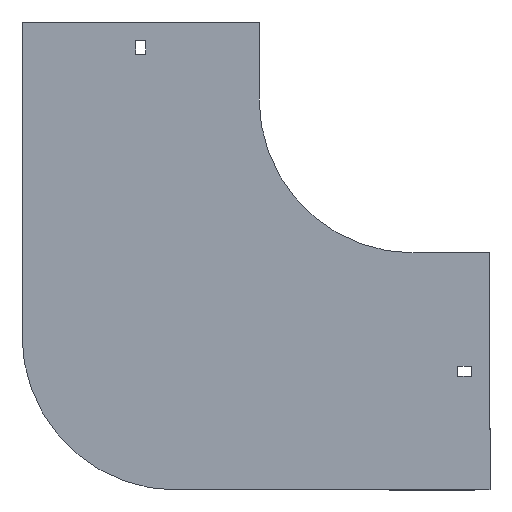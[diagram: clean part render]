
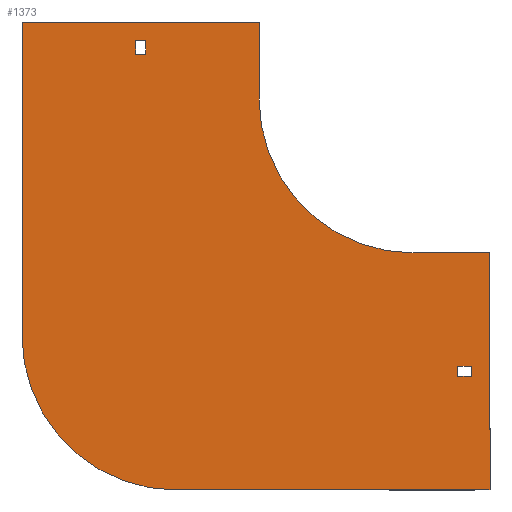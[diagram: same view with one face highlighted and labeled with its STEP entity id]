
A CAD part, front view. The second image highlights one B-rep face of the part: STEP entity #1373.
In plain terms, the highlighted planar face has unit normal (0, -1, 0).
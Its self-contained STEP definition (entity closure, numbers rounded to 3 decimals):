
#10 = EDGE_CURVE ( 'NONE', #223, #844, #1208, .T. ) ;
#24 = VERTEX_POINT ( 'NONE', #856 ) ;
#40 = CARTESIAN_POINT ( 'NONE',  ( -100., 0., 0. ) ) ;
#52 = FACE_BOUND ( 'NONE', #233, .T. ) ;
#71 = CARTESIAN_POINT ( 'NONE',  ( -100., 0., 50. ) ) ;
#92 = CARTESIAN_POINT ( 'NONE',  ( -173.75, 0., 29. ) ) ;
#130 = CARTESIAN_POINT ( 'NONE',  ( 29., 0., -180.25 ) ) ;
#133 = VERTEX_POINT ( 'NONE', #886 ) ;
#172 = CARTESIAN_POINT ( 'NONE',  ( -173.75, 0., 38. ) ) ;
#209 = VERTEX_POINT ( 'NONE', #172 ) ;
#223 = VERTEX_POINT ( 'NONE', #71 ) ;
#227 = AXIS2_PLACEMENT_3D ( 'NONE', #358, #773, #465 ) ;
#233 = EDGE_LOOP ( 'NONE', ( #887, #319, #785, #762 ) ) ;
#238 = DIRECTION ( 'NONE',  ( 0., 0., -1. ) ) ;
#240 = VERTEX_POINT ( 'NONE', #801 ) ;
#302 = ORIENTED_EDGE ( 'NONE', *, *, #1188, .F. ) ;
#303 = DIRECTION ( 'NONE',  ( 0., 0., 1. ) ) ;
#304 = VECTOR ( 'NONE', #565, 1000. ) ;
#307 = EDGE_CURVE ( 'NONE', #1402, #1036, #934, .T. ) ;
#319 = ORIENTED_EDGE ( 'NONE', *, *, #1051, .T. ) ;
#323 = LINE ( 'NONE', #404, #1011 ) ;
#324 = EDGE_CURVE ( 'NONE', #1121, #240, #520, .T. ) ;
#328 = VECTOR ( 'NONE', #1186, 1000. ) ;
#331 = CARTESIAN_POINT ( 'NONE',  ( 0., 0., 0. ) ) ;
#353 = CARTESIAN_POINT ( 'NONE',  ( 29., 0., -180.25 ) ) ;
#358 = CARTESIAN_POINT ( 'NONE',  ( -154., 0., -154. ) ) ;
#361 = ORIENTED_EDGE ( 'NONE', *, *, #324, .F. ) ;
#383 = ORIENTED_EDGE ( 'NONE', *, *, #908, .F. ) ;
#399 = CARTESIAN_POINT ( 'NONE',  ( 50., 0., -254. ) ) ;
#401 = VECTOR ( 'NONE', #664, 1000. ) ;
#404 = CARTESIAN_POINT ( 'NONE',  ( 50., 0., -100. ) ) ;
#407 = LINE ( 'NONE', #611, #440 ) ;
#437 = LINE ( 'NONE', #970, #304 ) ;
#440 = VECTOR ( 'NONE', #1009, 1000. ) ;
#448 = CARTESIAN_POINT ( 'NONE',  ( -154., 0., -254. ) ) ;
#454 = ORIENTED_EDGE ( 'NONE', *, *, #1321, .F. ) ;
#465 = DIRECTION ( 'NONE',  ( 0., 0., 1. ) ) ;
#474 = DIRECTION ( 'NONE',  ( 0., -1., 0. ) ) ;
#487 = CARTESIAN_POINT ( 'NONE',  ( 0., 0., 0. ) ) ;
#489 = VECTOR ( 'NONE', #506, 1000. ) ;
#499 = EDGE_CURVE ( 'NONE', #24, #1121, #875, .T. ) ;
#506 = DIRECTION ( 'NONE',  ( 1., 0., 0. ) ) ;
#513 = CARTESIAN_POINT ( 'NONE',  ( 38., 0., -180.25 ) ) ;
#520 = LINE ( 'NONE', #513, #1055 ) ;
#531 = EDGE_CURVE ( 'NONE', #240, #764, #407, .T. ) ;
#541 = ORIENTED_EDGE ( 'NONE', *, *, #799, .F. ) ;
#551 = ORIENTED_EDGE ( 'NONE', *, *, #1211, .F. ) ;
#565 = DIRECTION ( 'NONE',  ( 0., 0., -1. ) ) ;
#586 = FACE_BOUND ( 'NONE', #678, .T. ) ;
#597 = EDGE_CURVE ( 'NONE', #1261, #133, #1132, .T. ) ;
#611 = CARTESIAN_POINT ( 'NONE',  ( 29., 0., -173.75 ) ) ;
#619 = CARTESIAN_POINT ( 'NONE',  ( -180.25, 0., 29. ) ) ;
#633 = DIRECTION ( 'NONE',  ( 0., 0., -1. ) ) ;
#641 = CIRCLE ( 'NONE', #227, 100. ) ;
#645 = LINE ( 'NONE', #1212, #328 ) ;
#664 = DIRECTION ( 'NONE',  ( 1., 0., 0. ) ) ;
#667 = VERTEX_POINT ( 'NONE', #833 ) ;
#678 = EDGE_LOOP ( 'NONE', ( #361, #1388, #383, #951 ) ) ;
#683 = FACE_OUTER_BOUND ( 'NONE', #1035, .T. ) ;
#689 = VERTEX_POINT ( 'NONE', #952 ) ;
#690 = CARTESIAN_POINT ( 'NONE',  ( -180.25, 0., 29. ) ) ;
#692 = LINE ( 'NONE', #1350, #1210 ) ;
#695 = CARTESIAN_POINT ( 'NONE',  ( 0., 0., -100. ) ) ;
#706 = PLANE ( 'NONE',  #1057 ) ;
#726 = VERTEX_POINT ( 'NONE', #1046 ) ;
#762 = ORIENTED_EDGE ( 'NONE', *, *, #1352, .T. ) ;
#764 = VERTEX_POINT ( 'NONE', #1000 ) ;
#768 = ORIENTED_EDGE ( 'NONE', *, *, #10, .F. ) ;
#773 = DIRECTION ( 'NONE',  ( 0., 1., 0. ) ) ;
#785 = ORIENTED_EDGE ( 'NONE', *, *, #1234, .T. ) ;
#799 = EDGE_CURVE ( 'NONE', #667, #223, #645, .T. ) ;
#801 = CARTESIAN_POINT ( 'NONE',  ( 38., 0., -173.75 ) ) ;
#804 = DIRECTION ( 'NONE',  ( -1., 0., 0. ) ) ;
#822 = AXIS2_PLACEMENT_3D ( 'NONE', #331, #1043, #1394 ) ;
#833 = CARTESIAN_POINT ( 'NONE',  ( -254., 0., 50. ) ) ;
#844 = VERTEX_POINT ( 'NONE', #40 ) ;
#850 = LINE ( 'NONE', #1263, #1033 ) ;
#856 = CARTESIAN_POINT ( 'NONE',  ( 29., 0., -180.25 ) ) ;
#864 = CIRCLE ( 'NONE', #822, 100. ) ;
#873 = CARTESIAN_POINT ( 'NONE',  ( 0., 0., -100. ) ) ;
#875 = LINE ( 'NONE', #353, #401 ) ;
#886 = CARTESIAN_POINT ( 'NONE',  ( 50., 0., -100. ) ) ;
#887 = ORIENTED_EDGE ( 'NONE', *, *, #307, .T. ) ;
#907 = CARTESIAN_POINT ( 'NONE',  ( -180.25, 0., 38. ) ) ;
#908 = EDGE_CURVE ( 'NONE', #764, #24, #1312, .T. ) ;
#913 = LINE ( 'NONE', #690, #1238 ) ;
#920 = DIRECTION ( 'NONE',  ( 0., 0., -1. ) ) ;
#934 = LINE ( 'NONE', #619, #1213 ) ;
#935 = ORIENTED_EDGE ( 'NONE', *, *, #1073, .F. ) ;
#936 = CARTESIAN_POINT ( 'NONE',  ( 38., 0., -180.25 ) ) ;
#951 = ORIENTED_EDGE ( 'NONE', *, *, #531, .F. ) ;
#952 = CARTESIAN_POINT ( 'NONE',  ( 50., 0., -254. ) ) ;
#957 = ORIENTED_EDGE ( 'NONE', *, *, #1148, .F. ) ;
#970 = CARTESIAN_POINT ( 'NONE',  ( -173.75, 0., 29. ) ) ;
#1000 = CARTESIAN_POINT ( 'NONE',  ( 29., 0., -173.75 ) ) ;
#1009 = DIRECTION ( 'NONE',  ( -1., 0., 0. ) ) ;
#1011 = VECTOR ( 'NONE', #633, 1000. ) ;
#1033 = VECTOR ( 'NONE', #303, 1000. ) ;
#1035 = EDGE_LOOP ( 'NONE', ( #541, #551, #454, #935, #302, #1223, #957, #768 ) ) ;
#1036 = VERTEX_POINT ( 'NONE', #907 ) ;
#1043 = DIRECTION ( 'NONE',  ( 0., -1., 0. ) ) ;
#1046 = CARTESIAN_POINT ( 'NONE',  ( -254., 0., -154. ) ) ;
#1051 = EDGE_CURVE ( 'NONE', #1036, #209, #692, .T. ) ;
#1055 = VECTOR ( 'NONE', #1159, 1000. ) ;
#1057 = AXIS2_PLACEMENT_3D ( 'NONE', #487, #474, #920 ) ;
#1073 = EDGE_CURVE ( 'NONE', #689, #1239, #1368, .T. ) ;
#1075 = VECTOR ( 'NONE', #1295, 1000. ) ;
#1121 = VERTEX_POINT ( 'NONE', #936 ) ;
#1122 = DIRECTION ( 'NONE',  ( 1., 0., 0. ) ) ;
#1132 = LINE ( 'NONE', #695, #489 ) ;
#1142 = CARTESIAN_POINT ( 'NONE',  ( -180.25, 0., 29. ) ) ;
#1148 = EDGE_CURVE ( 'NONE', #844, #1261, #864, .T. ) ;
#1159 = DIRECTION ( 'NONE',  ( 0., 0., 1. ) ) ;
#1165 = DIRECTION ( 'NONE',  ( 0., 0., 1. ) ) ;
#1166 = VERTEX_POINT ( 'NONE', #92 ) ;
#1183 = CARTESIAN_POINT ( 'NONE',  ( -100., 0., 50. ) ) ;
#1186 = DIRECTION ( 'NONE',  ( 1., 0., 0. ) ) ;
#1188 = EDGE_CURVE ( 'NONE', #133, #689, #323, .T. ) ;
#1195 = VECTOR ( 'NONE', #238, 1000. ) ;
#1208 = LINE ( 'NONE', #1183, #1075 ) ;
#1210 = VECTOR ( 'NONE', #1122, 1000. ) ;
#1211 = EDGE_CURVE ( 'NONE', #726, #667, #850, .T. ) ;
#1212 = CARTESIAN_POINT ( 'NONE',  ( -254., 0., 50. ) ) ;
#1213 = VECTOR ( 'NONE', #1165, 1000. ) ;
#1223 = ORIENTED_EDGE ( 'NONE', *, *, #597, .F. ) ;
#1234 = EDGE_CURVE ( 'NONE', #209, #1166, #437, .T. ) ;
#1238 = VECTOR ( 'NONE', #1254, 1000. ) ;
#1239 = VERTEX_POINT ( 'NONE', #448 ) ;
#1254 = DIRECTION ( 'NONE',  ( -1., 0., 0. ) ) ;
#1261 = VERTEX_POINT ( 'NONE', #873 ) ;
#1263 = CARTESIAN_POINT ( 'NONE',  ( -254., 0., -154. ) ) ;
#1295 = DIRECTION ( 'NONE',  ( 0., 0., -1. ) ) ;
#1312 = LINE ( 'NONE', #130, #1195 ) ;
#1321 = EDGE_CURVE ( 'NONE', #1239, #726, #641, .T. ) ;
#1350 = CARTESIAN_POINT ( 'NONE',  ( -180.25, 0., 38. ) ) ;
#1352 = EDGE_CURVE ( 'NONE', #1166, #1402, #913, .T. ) ;
#1368 = LINE ( 'NONE', #399, #1399 ) ;
#1373 = ADVANCED_FACE ( 'NONE', ( #52, #683, #586 ), #706, .T. ) ;
#1388 = ORIENTED_EDGE ( 'NONE', *, *, #499, .F. ) ;
#1394 = DIRECTION ( 'NONE',  ( 0., 0., -1. ) ) ;
#1399 = VECTOR ( 'NONE', #804, 1000. ) ;
#1402 = VERTEX_POINT ( 'NONE', #1142 ) ;
